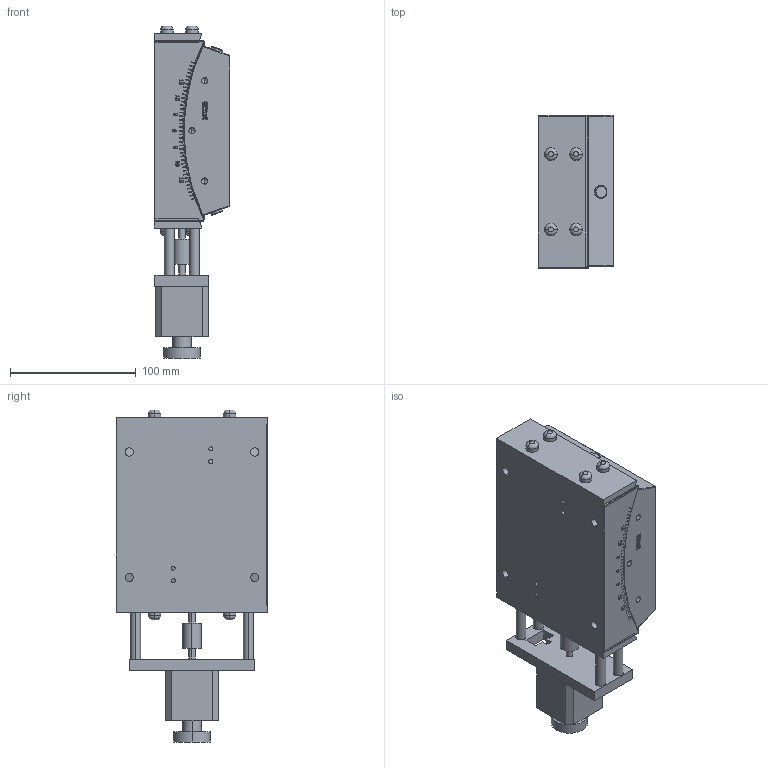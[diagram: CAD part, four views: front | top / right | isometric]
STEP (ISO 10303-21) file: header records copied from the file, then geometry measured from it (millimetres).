
FILE_DESCRIPTION (( 'STEP AP214' ), '1' );
FILE_NAME ('PT-GD311.STEP', '2022-11-06T02:13:45', ( '' ), ( '' ), 'SwSTEP 2.0', 'SolidWorks 2017', '' );
FILE_SCHEMA (( 'AUTOMOTIVE_DESIGN' ));
Length unit declared in the file: millimetre
Products named in the file (3): PT-GD311; PT-SD312-奻釱; PT-SD312-狟釱
Assembly tree (2 placements, depth 2):
  PT-GD311
    PT-SD312-狟釱
    PT-SD312-奻釱
Bounding box: 60 x 121 x 264.5 mm (x, y, z)
Volume: 1133614.4 mm3; surface area: 193767.4 mm2
Topology: 5 solids, 5 shells, 898 faces, 2414 edges, 1557 vertices
Faces by surface type: plane 423, bspline 201, cylinder 182, cone 76, torus 16
Entity records: 35032 total; most frequent: CARTESIAN_POINT 13627, ORIENTED_EDGE 4774, DIRECTION 3693, EDGE_CURVE 2387, VERTEX_POINT 1557, VECTOR 1339, LINE 1339, AXIS2_PLACEMENT_3D 1177
